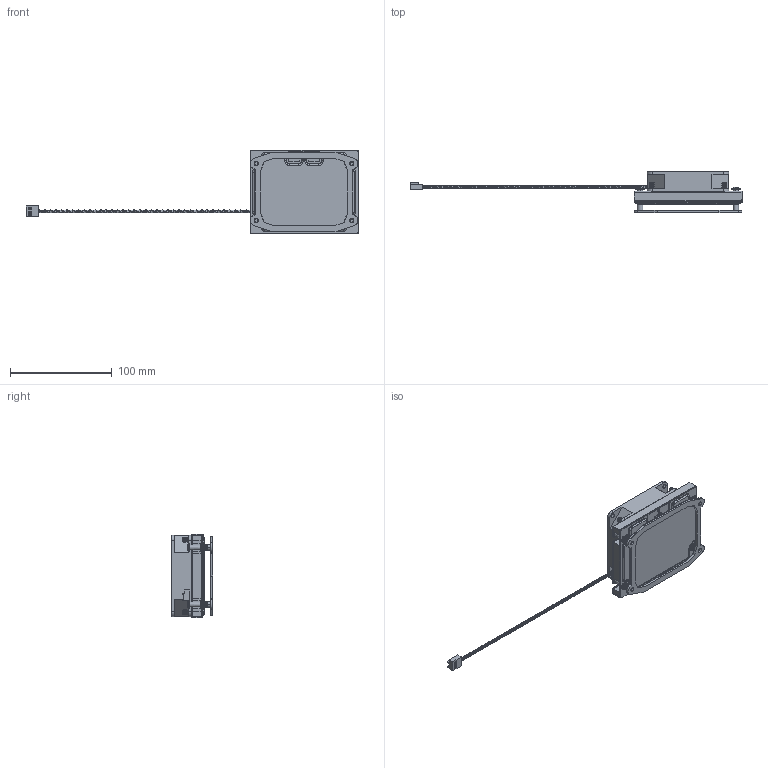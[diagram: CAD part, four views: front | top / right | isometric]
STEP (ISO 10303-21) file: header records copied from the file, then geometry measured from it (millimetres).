
FILE_DESCRIPTION((''),'2;1');
FILE_NAME('RG4124-33-002_ME_ASM','2022-11-22T',('User'),(''),'PRO/ENGINEER BY PARAMETRIC TECHNOLOGY CORPORATION, 2017170','PRO/ENGINEER BY PARAMETRIC TECHNOLOGY CORPORATION, 2017170','');
FILE_SCHEMA(('CONFIG_CONTROL_DESIGN'));
Products named in the file (20): NEW-EXON-VC-BOTTOM_SHIELD_1_1_1; NEW-EXON-VC-TOP_SHIELD_1_1_1_1_; TAIL_1_1_1_1_1; NEW-EXON-VC_ASM_1_ASM_1_ASM_1_A_ASM; R25-HS_ASM_1_ASM_1_ASM_1_ASM_1__ASM; RG4124_FAN_COVER_1_1; T5_10L_SCREW_1_1; 50902890_1_1_1_1; 51900010G_1_1_1_1; SCREW_ASSY_ASM_1_ASM_1_ASM; RG4124-2_ASM_1_ASM_1_ASM; AD208020HBPA04_1_1; 4P-PLUGZ__VORTEX__1_1; LABEL_R30_1_1; AD208020HBPA04_ASM_1_ASM_1_ASM; 850-BP2011_1_1_1; 850-BP2011_MYLER_1_1; 850-BP2011_PAD_1_1; 850-BP2011_ASSY_ASM_1_ASM_1_ASM; RG4124-33-002_ME_ASM
Assembly tree (25 placements, depth 5):
  RG4124-33-002_ME_ASM
    RG4124-2_ASM_1_ASM_1_ASM
      R25-HS_ASM_1_ASM_1_ASM_1_ASM_1__ASM
        NEW-EXON-VC_ASM_1_ASM_1_ASM_1_A_ASM
          NEW-EXON-VC-BOTTOM_SHIELD_1_1_1
          NEW-EXON-VC-TOP_SHIELD_1_1_1_1_
          TAIL_1_1_1_1_1
      RG4124_FAN_COVER_1_1
      T5_10L_SCREW_1_1  x4
      SCREW_ASSY_ASM_1_ASM_1_ASM  x4
        50902890_1_1_1_1
        51900010G_1_1_1_1
    AD208020HBPA04_ASM_1_ASM_1_ASM
      AD208020HBPA04_1_1
      4P-PLUGZ__VORTEX__1_1
      LABEL_R30_1_1
    850-BP2011_ASSY_ASM_1_ASM_1_ASM
      850-BP2011_1_1_1
      850-BP2011_MYLER_1_1
      850-BP2011_PAD_1_1
Bounding box: 326 x 41.13 x 82 mm (x, y, z)
Volume: 193481.1 mm3; surface area: 103142.9 mm2
Topology: 22 solids, 22 shells, 2370 faces, 5900 edges, 3615 vertices
Faces by surface type: plane 862, bspline 649, cylinder 528, torus 172, extrusion 97, cone 60, sphere 2
Entity records: 105375 total; most frequent: CARTESIAN_POINT 64562, ORIENTED_EDGE 9208, DIRECTION 6770, EDGE_CURVE 4604, VERTEX_POINT 2811, VECTOR 2328, LINE 2231, AXIS2_PLACEMENT_3D 2221
